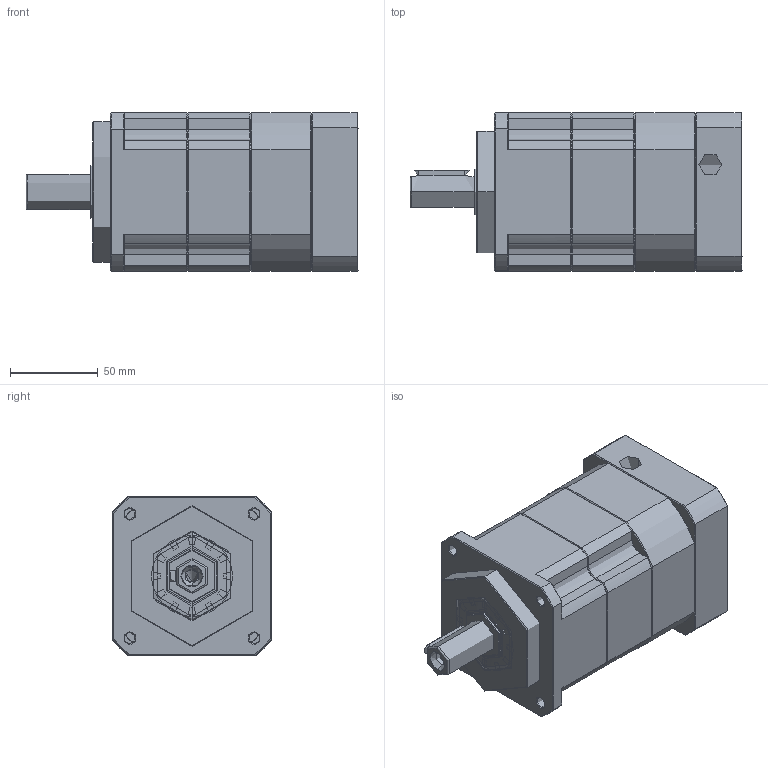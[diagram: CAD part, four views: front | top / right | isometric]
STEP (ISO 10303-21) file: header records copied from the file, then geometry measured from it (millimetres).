
FILE_DESCRIPTION (( 'STEP AP214' ), '1' );
FILE_NAME ('ZPB090-D20-L2-P1-19-70-90-M6.step', '2024-06-07T18:15:49', ( 'Windows 蚚誧' ), ( 'Organization' ), 'SwSTEP 2.0', 'SolidWorks 2016', '' );
FILE_SCHEMA (( 'AUTOMOTIVE_DESIGN' ));
Length unit declared in the file: millimetre
Products named in the file (1): ZPB090-D20-L2-P1-19-70-90-M6
Bounding box: 189 x 90 x 90 mm (x, y, z)
Topology: 0 solids, 37 shells, 1890 faces, 4987 edges, 3161 vertices
Faces by surface type: plane 972, bspline 389, cone 291, cylinder 236, torus 2
Full cylindrical faces by diameter (mm): 6.72 x1
Entity records: 96507 total; most frequent: CARTESIAN_POINT 48049, ORIENTED_EDGE 9925, DIRECTION 7709, EDGE_CURVE 4983, LINE 3277, VECTOR 3277, VERTEX_POINT 3159, AXIS2_PLACEMENT_3D 2216
